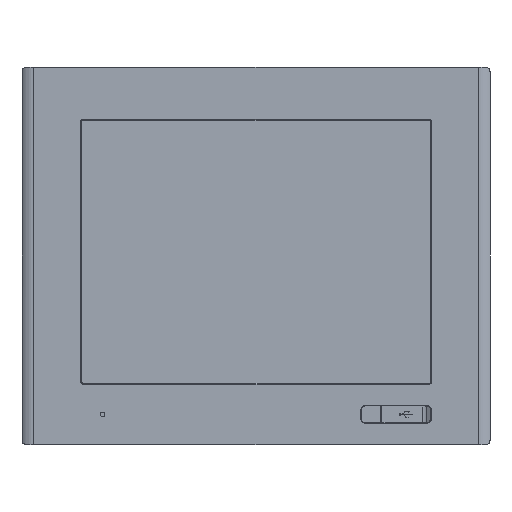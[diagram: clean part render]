
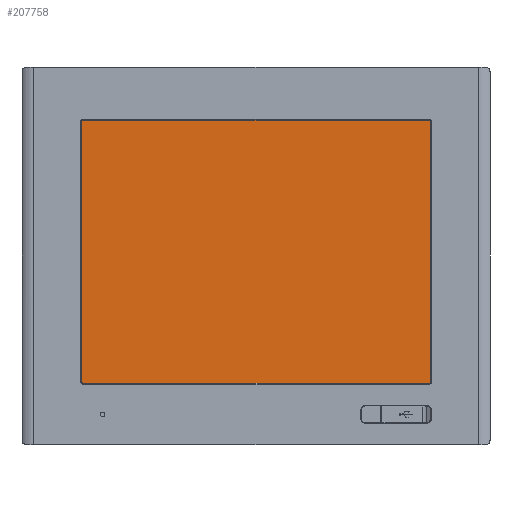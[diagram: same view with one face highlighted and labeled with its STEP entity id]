
A CAD part, front view. The second image highlights one B-rep face of the part: STEP entity #207758.
In plain terms, the highlighted planar face has unit normal (0, -1, 0).
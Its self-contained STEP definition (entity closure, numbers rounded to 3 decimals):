
#207649=DIRECTION('',(1.,0.,0.));
#207650=VECTOR('',#207649,252.67);
#207651=CARTESIAN_POINT('',(-126.34,-2.1,94.1));
#207652=LINE('',#207651,#207650);
#207653=DIRECTION('',(0.,0.,-1.));
#207654=VECTOR('',#207653,191.2);
#207655=CARTESIAN_POINT('',(126.33,-2.1,94.1));
#207656=LINE('',#207655,#207654);
#207657=DIRECTION('',(-1.,0.,0.));
#207658=VECTOR('',#207657,252.67);
#207659=CARTESIAN_POINT('',(126.33,-2.1,-97.1));
#207660=LINE('',#207659,#207658);
#207661=DIRECTION('',(0.,0.,1.));
#207662=VECTOR('',#207661,191.2);
#207663=CARTESIAN_POINT('',(-126.34,-2.1,-97.1));
#207664=LINE('',#207663,#207662);
#207689=CARTESIAN_POINT('',(-126.34,-2.1,94.1));
#207690=CARTESIAN_POINT('',(126.33,-2.1,94.1));
#207691=VERTEX_POINT('',#207689);
#207692=VERTEX_POINT('',#207690);
#207693=CARTESIAN_POINT('',(126.33,-2.1,-97.1));
#207694=VERTEX_POINT('',#207693);
#207695=CARTESIAN_POINT('',(-126.34,-2.1,-97.1));
#207696=VERTEX_POINT('',#207695);
#207743=CARTESIAN_POINT('',(-3.815,-2.1,-1.5));
#207744=DIRECTION('',(0.,-1.,0.));
#207745=DIRECTION('',(1.,0.,0.));
#207746=AXIS2_PLACEMENT_3D('',#207743,#207744,#207745);
#207747=PLANE('',#207746);
#207749=ORIENTED_EDGE('',*,*,#207748,.T.);
#207751=ORIENTED_EDGE('',*,*,#207750,.T.);
#207753=ORIENTED_EDGE('',*,*,#207752,.T.);
#207755=ORIENTED_EDGE('',*,*,#207754,.T.);
#207756=EDGE_LOOP('',(#207749,#207751,#207753,#207755));
#207757=FACE_OUTER_BOUND('',#207756,.F.);
#207748=EDGE_CURVE('',#207691,#207692,#207652,.T.);
#207750=EDGE_CURVE('',#207692,#207694,#207656,.T.);
#207752=EDGE_CURVE('',#207694,#207696,#207660,.T.);
#207754=EDGE_CURVE('',#207696,#207691,#207664,.T.);
#207758=ADVANCED_FACE('',(#207757),#207747,.T.);
